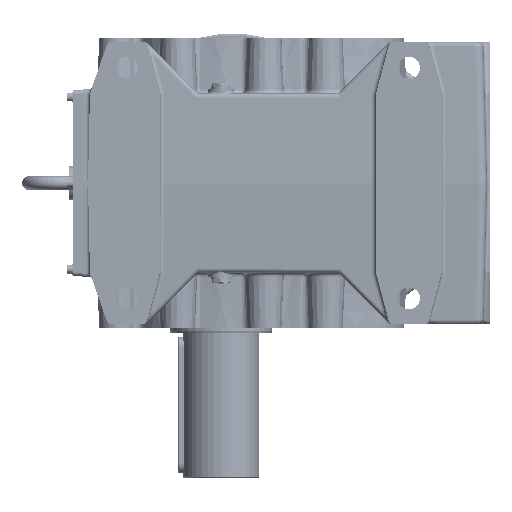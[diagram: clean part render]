
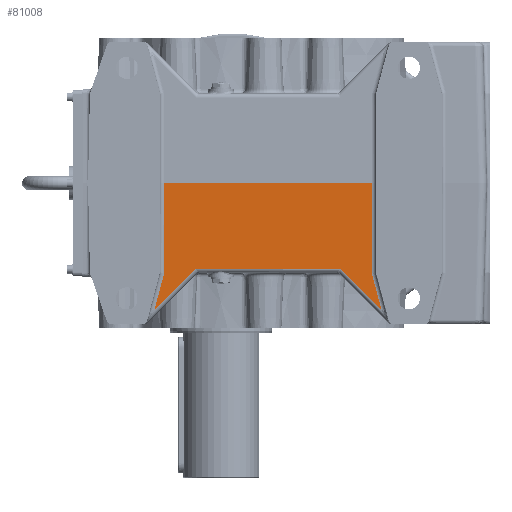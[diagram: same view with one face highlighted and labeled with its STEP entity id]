
A CAD part, left-side view. The second image highlights one B-rep face of the part: STEP entity #81008.
In plain terms, the highlighted planar face has unit normal (-1, 0, -0.026).
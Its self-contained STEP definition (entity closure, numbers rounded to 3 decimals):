
#56617=CARTESIAN_POINT('',(-192.128,-139.571,-100.131));
#56618=VERTEX_POINT('',#56617);
#56626=CARTESIAN_POINT('',(-192.128,29.571,-100.131));
#56627=VERTEX_POINT('',#56626);
#56628=CARTESIAN_POINT('',(-192.128,-139.571,-100.131));
#56629=DIRECTION('',(0.0,1.0,0.0));
#56630=VECTOR('',#56629,169.142);
#56631=LINE('',#56628,#56630);
#56632=EDGE_CURVE('',#56618,#56627,#56631,.T.);
#63012=CARTESIAN_POINT('',(-191.986,66.5,-105.524));
#63013=VERTEX_POINT('',#63012);
#63038=CARTESIAN_POINT('',(-194.75,66.5,0.0));
#63039=VERTEX_POINT('',#63038);
#63040=CARTESIAN_POINT('',(-191.986,66.5,-105.524));
#63041=DIRECTION('',(-0.026,0.0,1.));
#63042=VECTOR('',#63041,105.561);
#63043=LINE('',#63040,#63042);
#63044=EDGE_CURVE('',#63013,#63039,#63043,.T.);
#63071=CARTESIAN_POINT('',(-190.86,77.967,-148.527));
#63072=VERTEX_POINT('',#63071);
#63080=CARTESIAN_POINT('',(-190.86,77.967,-148.527));
#63081=DIRECTION('',(-0.025,-0.258,0.966));
#63082=VECTOR('',#63081,44.52);
#63083=LINE('',#63080,#63082);
#63084=EDGE_CURVE('',#63072,#63013,#63083,.T.);
#63538=CARTESIAN_POINT('',(-191.986,-176.5,-105.524));
#63539=VERTEX_POINT('',#63538);
#63633=CARTESIAN_POINT('',(-190.86,-187.967,-148.527));
#63634=VERTEX_POINT('',#63633);
#63635=CARTESIAN_POINT('',(-191.986,-176.5,-105.524));
#63636=DIRECTION('',(0.025,-0.258,-0.966));
#63637=VECTOR('',#63636,44.52);
#63638=LINE('',#63635,#63637);
#63639=EDGE_CURVE('',#63539,#63634,#63638,.T.);
#65081=CARTESIAN_POINT('',(-194.75,-176.5,0.0));
#65082=VERTEX_POINT('',#65081);
#65090=CARTESIAN_POINT('',(-194.75,-176.5,0.));
#65091=DIRECTION('',(0.026,0.0,-1.));
#65092=VECTOR('',#65091,105.561);
#65093=LINE('',#65090,#65092);
#65094=EDGE_CURVE('',#65082,#63539,#65093,.T.);
#67051=CARTESIAN_POINT('',(-190.86,-187.967,-148.527));
#67052=DIRECTION('',(-0.019,0.707,0.707));
#67053=VECTOR('',#67052,68.455);
#67054=LINE('',#67051,#67053);
#67055=EDGE_CURVE('',#63634,#56618,#67054,.T.);
#67228=CARTESIAN_POINT('',(-192.128,29.571,-100.131));
#67229=DIRECTION('',(0.019,0.707,-0.707));
#67230=VECTOR('',#67229,68.455);
#67231=LINE('',#67228,#67230);
#67232=EDGE_CURVE('',#56627,#63072,#67231,.T.);
#80962=CARTESIAN_POINT('',(-194.75,66.5,0.0));
#80963=DIRECTION('',(0.0,-1.0,0.0));
#80964=VECTOR('',#80963,243.0);
#80965=LINE('',#80962,#80964);
#80966=EDGE_CURVE('',#63039,#65082,#80965,.T.);
#80993=CARTESIAN_POINT('',(-194.749,-307.0,-0.036));
#80994=DIRECTION('',(1.,0.,0.026));
#80995=DIRECTION('',(0.026,0.,-1.));
#80996=AXIS2_PLACEMENT_3D('',#80993,#80994,#80995);
#80997=PLANE('',#80996);
#80998=ORIENTED_EDGE('',*,*,#63084,.F.);
#80999=ORIENTED_EDGE('',*,*,#67232,.F.);
#81000=ORIENTED_EDGE('',*,*,#56632,.F.);
#81001=ORIENTED_EDGE('',*,*,#67055,.F.);
#81002=ORIENTED_EDGE('',*,*,#63639,.F.);
#81003=ORIENTED_EDGE('',*,*,#65094,.F.);
#81004=ORIENTED_EDGE('',*,*,#80966,.F.);
#81005=ORIENTED_EDGE('',*,*,#63044,.F.);
#81006=EDGE_LOOP('',(#80998,#80999,#81000,#81001,#81002,#81003,#81004,#81005));
#81007=FACE_OUTER_BOUND('',#81006,.T.);
#81008=ADVANCED_FACE('',(#81007),#80997,.F.);
